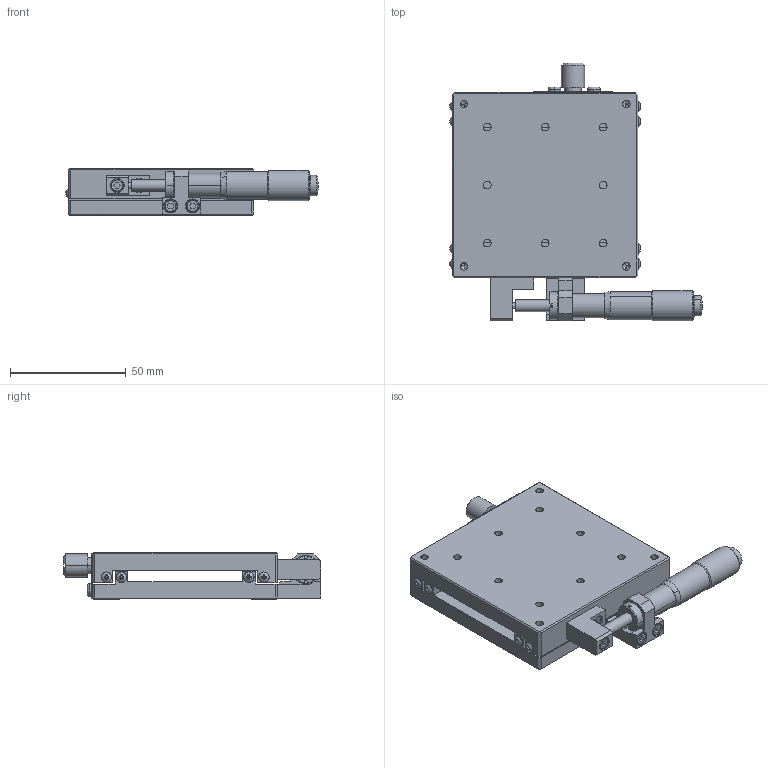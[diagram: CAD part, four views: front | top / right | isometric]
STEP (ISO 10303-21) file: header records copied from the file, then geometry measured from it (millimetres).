
FILE_DESCRIPTION (( 'STEP AP203' ), '1' );
FILE_NAME ('MBX80-L.STEP', '2019-05-02T02:17:44', ( 'User' ), ( 'No' ), 'SwSTEP 2.0', 'SolidWorks 2012', '' );
FILE_SCHEMA (( 'CONFIG_CONTROL_DESIGN' ));
Length unit declared in the file: millimetre
Products named in the file (4): MBX80-L; MT25-1-1; LB80L-2; LB80L-1
Assembly tree (3 placements, depth 2):
  MBX80-L
    LB80L-1
    LB80L-2
    MT25-1-1
Bounding box: 108.81 x 111.1 x 20 mm (x, y, z)
Volume: 113929.8 mm3; surface area: 45583.6 mm2
Topology: 9 solids, 9 shells, 609 faces, 1611 edges, 1027 vertices
Faces by surface type: plane 324, cylinder 171, cone 82, torus 18, sphere 10, bspline 4
Entity records: 22557 total; most frequent: CARTESIAN_POINT 7794, ORIENTED_EDGE 3118, DIRECTION 2750, EDGE_CURVE 1559, VERTEX_POINT 1017, AXIS2_PLACEMENT_3D 1013, VECTOR 724, LINE 724
